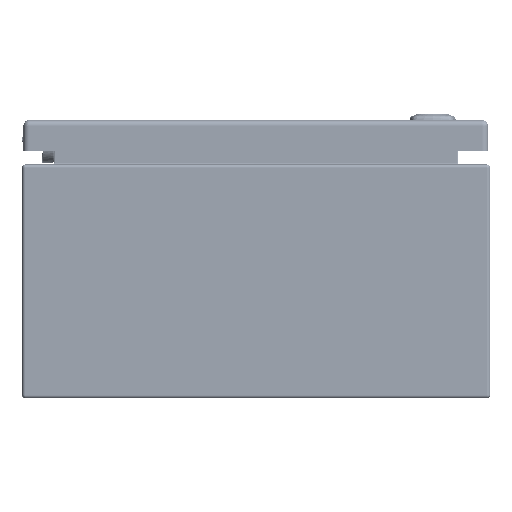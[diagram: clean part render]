
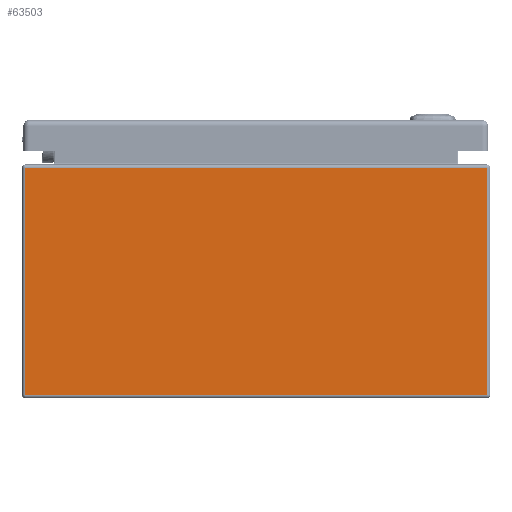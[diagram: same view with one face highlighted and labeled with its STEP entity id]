
A CAD part, front view. The second image highlights one B-rep face of the part: STEP entity #63503.
In plain terms, the highlighted planar face has unit normal (0, -1, 0).
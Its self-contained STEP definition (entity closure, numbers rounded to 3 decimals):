
#6063=LINE('',#89625,#9978);
#6070=LINE('',#89640,#9985);
#6072=LINE('',#89647,#9987);
#6074=LINE('',#89656,#9989);
#9978=VECTOR('',#74181,0.394);
#9985=VECTOR('',#74194,0.394);
#9987=VECTOR('',#74202,0.394);
#9989=VECTOR('',#74214,0.394);
#14940=FACE_OUTER_BOUND('',#18889,.T.);
#18889=EDGE_LOOP('',(#42285,#42286,#42287,#42288));
#25553=VERTEX_POINT('',#89595);
#25560=VERTEX_POINT('',#89621);
#25565=VERTEX_POINT('',#89639);
#25567=VERTEX_POINT('',#89645);
#31993=EDGE_CURVE('',#25553,#25560,#6063,.T.);
#32000=EDGE_CURVE('',#25560,#25565,#6070,.T.);
#32004=EDGE_CURVE('',#25567,#25553,#6072,.T.);
#32009=EDGE_CURVE('',#25567,#25565,#6074,.T.);
#42285=ORIENTED_EDGE('',*,*,#31993,.F.);
#42286=ORIENTED_EDGE('',*,*,#32004,.F.);
#42287=ORIENTED_EDGE('',*,*,#32009,.T.);
#42288=ORIENTED_EDGE('',*,*,#32000,.F.);
#62142=PLANE('',#68293);
#63503=ADVANCED_FACE('',(#14940),#62142,.F.);
#68293=AXIS2_PLACEMENT_3D('',#89667,#74228,#74229);
#74181=DIRECTION('',(1.,0.,0.));
#74194=DIRECTION('',(0.,0.,-1.));
#74202=DIRECTION('',(0.,0.,1.));
#74214=DIRECTION('',(1.,0.,0.));
#74228=DIRECTION('center_axis',(0.,1.,0.));
#74229=DIRECTION('ref_axis',(0.,0.,1.));
#89595=CARTESIAN_POINT('',(-5.916,-10.,5.916));
#89621=CARTESIAN_POINT('',(5.916,-10.,5.916));
#89625=CARTESIAN_POINT('',(2.979,-10.,5.916));
#89639=CARTESIAN_POINT('',(5.916,-10.,0.084));
#89640=CARTESIAN_POINT('',(5.916,-10.,3.));
#89645=CARTESIAN_POINT('',(-5.916,-10.,0.084));
#89647=CARTESIAN_POINT('',(-5.916,-10.,3.));
#89656=CARTESIAN_POINT('',(-2.958,-10.,0.084));
#89667=CARTESIAN_POINT('Origin',(0.,-10.,3.));
